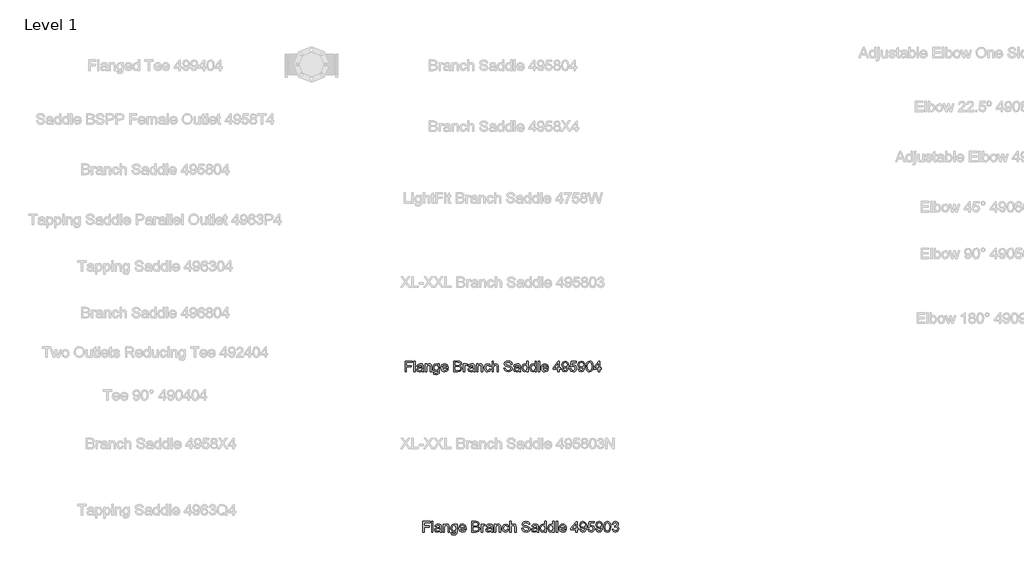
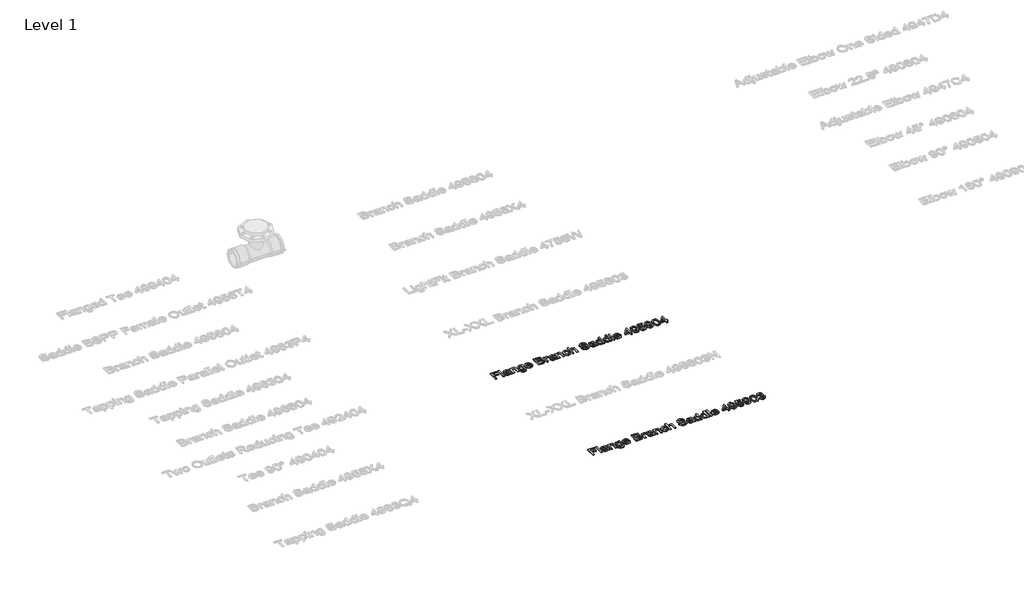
# One storey, part 10 of 38: 2 proxies.
"""IFC4 building model written with IfcOpenShell, lengths in millimetres."""

from ifc_helpers import new_model, si_unit, origin, origin_with_axes, place, context, project, spatial, polyline, outline, extrude, element, save

model = new_model("IFC4")

# Units and contexts
model_context = context("Model", 3, world=origin())
ifc_project = project(units=[si_unit("LENGTHUNIT", "METRE", prefix="MILLI")], contexts=[model_context])

# Site, building, storey
site = spatial("IfcSite", under=ifc_project)
building = spatial("IfcBuilding", under=site)
storey = spatial("IfcBuildingStorey", under=building, Name="Level 1", Elevation=0.0)

# Proxies
placement = place(None, origin())
element("IfcBuildingElementProxy", 1, Name="100 mm Arial", ObjectType="100 mm Arial", at=placement, inside=storey, context=model_context, shape_type="SweptSolid", body=[
    extrude(outline(polyline([(8453.5193072, 3257.5779735), (8453.5193072, 3316.6548966), (8493.2116149, 3316.6548966), (8493.2116149, 3309.2702812), (8460.9039226, 3309.2702812), (8460.9039226, 3291.7318197), (8488.5962303, 3291.7318197), (8488.5962303, 3284.3472043), (8460.9039226, 3284.3472043), (8460.9039226, 3257.5779735), (8453.5193072, 3257.5779735)])), origin_with_axes(), (0.0, 0.0, 1.0), 5.0),
    extrude(outline(polyline([(8502.4423841, 3257.5779735), (8502.4423841, 3316.6548966), (8509.8269995, 3316.6548966), (8509.8269995, 3257.5779735), (8502.4423841, 3257.5779735)])), origin_with_axes(), (0.0, 0.0, 1.0), 5.0),
    extrude(outline(polyline([(8548.5962303, 3263.1164351), (8541.4351726, 3258.1116274), (8533.5241149, 3256.6548966), (8522.8005572, 3260.1597043), (8519.0577687, 3269.1164351), (8520.4712303, 3274.9577812), (8524.1851726, 3279.1981658), (8529.3558456, 3281.6212428), (8535.7452687, 3282.7318197), (8548.552961, 3285.2702812), (8548.5962303, 3286.914512), (8546.5625764, 3292.3664351), (8538.3991149, 3294.5010505), (8530.927961, 3293.0803774), (8527.365461, 3288.039512), (8519.9808456, 3288.9625889), (8523.1755572, 3296.1741274), (8529.6082495, 3300.4000889), (8539.351038, 3301.8856658), (8548.3005572, 3300.5731658), (8553.3558456, 3297.2774928), (8555.6202687, 3292.2654735), (8555.9808456, 3285.8039351), (8555.9808456, 3276.6164351), (8556.3558456, 3263.7871082), (8557.8269995, 3257.5779735), (8550.4423841, 3257.5779735), (8548.5962303, 3263.1164351)]), holes=[polyline([(8548.5962303, 3277.8856658), (8536.6827687, 3275.6212428), (8530.3294033, 3274.4241274), (8527.4519995, 3272.477012), (8526.4423841, 3269.6356658), (8528.6419033, 3265.6404735), (8535.0962303, 3264.039512), (8542.5673841, 3265.8063389), (8547.3846918, 3270.0827812), (8548.552961, 3275.7943197), (8548.5962303, 3277.8856658)])]), origin_with_axes(), (0.0, 0.0, 1.0), 5.0),
    extrude(outline(polyline([(8566.1346918, 3257.5779735), (8566.1346918, 3300.9625889), (8573.5193072, 3300.9625889), (8573.5193072, 3294.9048966), (8579.1659418, 3300.1404735), (8586.8750764, 3301.8856658), (8593.8486341, 3300.4794158), (8598.6082495, 3296.7871082), (8600.8221918, 3291.3568197), (8601.2116149, 3284.2173966), (8601.2116149, 3257.5779735), (8593.8269995, 3257.5779735), (8593.8269995, 3283.2222043), (8592.976038, 3289.7558582), (8589.9688264, 3293.2101851), (8584.8991149, 3294.5010505), (8576.8870956, 3291.602012), (8573.5193072, 3280.5972043), (8573.5193072, 3257.5779735), (8566.1346918, 3257.5779735)])), origin_with_axes(), (0.0, 0.0, 1.0), 5.0),
    extrude(outline(polyline([(8609.5193072, 3253.8856658), (8616.9039226, 3252.9625889), (8619.2981533, 3249.0683582), (8626.4664226, 3247.4241274), (8634.0241149, 3249.2847043), (8637.6298841, 3254.5058582), (8638.1346918, 3263.1164351), (8626.5962303, 3257.5779735), (8618.9826485, 3259.1897524), (8613.3053649, 3264.0250889), (8608.5962303, 3279.4866274), (8610.709211, 3290.9313389), (8616.8245956, 3299.0298966), (8626.2356533, 3301.8856658), (8632.8233937, 3300.2702812), (8638.1346918, 3295.4241274), (8638.1346918, 3300.9625889), (8645.5193072, 3300.9625889), (8645.5193072, 3263.5058582), (8643.5000764, 3249.1621082), (8637.1034418, 3242.4914351), (8626.3221918, 3240.039512), (8614.0409418, 3243.4938389), (8609.5193072, 3253.8856658)]), holes=[polyline([(8615.9808456, 3279.9914351), (8619.132288, 3268.5611466), (8627.0433456, 3264.9625889), (8634.9399803, 3268.539512), (8638.1346918, 3279.7750889), (8634.8462303, 3290.7871082), (8626.927961, 3294.5010505), (8619.1755572, 3290.8448005), (8615.9808456, 3279.9914351)])]), origin_with_axes(), (0.0, 0.0, 1.0), 5.0),
    extrude(outline(polyline([(8686.9712303, 3270.5010505), (8694.2116149, 3269.5779735), (8687.4399803, 3260.0443197), (8674.8269995, 3256.6548966), (8666.162336, 3258.117036), (8659.4952687, 3262.5034543), (8655.2440668, 3269.5292957), (8653.8269995, 3278.9097043), (8655.2584899, 3288.6056178), (8659.552961, 3295.8568197), (8666.1298841, 3300.3784543), (8674.4087303, 3301.8856658), (8682.4297639, 3300.3820601), (8688.8390187, 3295.8712428), (8693.0415428, 3288.6344639), (8694.4423841, 3278.9529735), (8694.3991149, 3276.9625889), (8661.2116149, 3276.9625889), (8665.459211, 3267.3712428), (8674.9712303, 3264.039512), (8682.2116149, 3265.5827812), (8686.9712303, 3270.5010505)]), holes=[polyline([(8661.2116149, 3284.3472043), (8687.0577687, 3284.3472043), (8684.101038, 3291.039512), (8674.3798841, 3294.5010505), (8665.2861341, 3291.7390312), (8661.2116149, 3284.3472043)])]), origin_with_axes(), (0.0, 0.0, 1.0), 5.0),
    extrude(outline(polyline([(8725.8269995, 3257.5779735), (8725.8269995, 3316.6548966), (8748.3702687, 3316.6548966), (8759.4111341, 3314.9169158), (8765.9303649, 3309.5731658), (8768.288538, 3302.0154735), (8766.3053649, 3295.1140312), (8760.3125764, 3289.8856658), (8767.5890187, 3284.3760505), (8770.1346918, 3275.1885505), (8768.396711, 3267.2486466), (8764.0914226, 3261.5948005), (8757.6659418, 3258.5948005), (8748.1971918, 3257.5779735), (8725.8269995, 3257.5779735)]), holes=[polyline([(8733.2116149, 3264.9625889), (8748.3558456, 3264.9625889), (8753.8366149, 3265.2510505), (8758.4736341, 3266.8592235), (8761.5457495, 3270.1404735), (8762.7500764, 3275.1164351), (8761.3366149, 3280.8568197), (8756.757288, 3284.2823005), (8747.6346918, 3285.2702812), (8733.2116149, 3285.2702812), (8733.2116149, 3264.9625889)]), polyline([(8733.2116149, 3292.6548966), (8746.6971918, 3292.6548966), (8754.5721918, 3293.289512), (8759.3101726, 3296.0226851), (8760.9039226, 3300.8327812), (8759.4183456, 3305.6500889), (8755.163538, 3308.4986466), (8745.6731533, 3309.2702812), (8733.2116149, 3309.2702812), (8733.2116149, 3292.6548966)])]), origin_with_axes(), (0.0, 0.0, 1.0), 5.0),
    extrude(outline(polyline([(8779.365461, 3257.5779735), (8779.365461, 3300.9625889), (8785.8269995, 3300.9625889), (8785.8269995, 3294.5443197), (8790.413538, 3300.4577812), (8795.0289226, 3301.8856658), (8802.4423841, 3299.6068197), (8799.976038, 3292.9866274), (8794.7837303, 3294.5010505), (8790.6082495, 3293.0443197), (8787.9471918, 3289.0058582), (8786.7500764, 3280.3808582), (8786.7500764, 3257.5779735), (8779.365461, 3257.5779735)])), origin_with_axes(), (0.0, 0.0, 1.0), 5.0),
    extrude(outline(polyline([(8834.7500764, 3263.1164351), (8827.5890187, 3258.1116274), (8819.677961, 3256.6548966), (8808.9544033, 3260.1597043), (8805.2116149, 3269.1164351), (8806.6250764, 3274.9577812), (8810.3390187, 3279.1981658), (8815.5096918, 3281.6212428), (8821.8991149, 3282.7318197), (8834.7068072, 3285.2702812), (8834.7500764, 3286.914512), (8832.7164226, 3292.3664351), (8824.552961, 3294.5010505), (8817.0818072, 3293.0803774), (8813.5193072, 3288.039512), (8806.1346918, 3288.9625889), (8809.3294033, 3296.1741274), (8815.7620956, 3300.4000889), (8825.5048841, 3301.8856658), (8834.4544033, 3300.5731658), (8839.5096918, 3297.2774928), (8841.7741149, 3292.2654735), (8842.1346918, 3285.8039351), (8842.1346918, 3276.6164351), (8842.5096918, 3263.7871082), (8843.9808456, 3257.5779735), (8836.5962303, 3257.5779735), (8834.7500764, 3263.1164351)]), holes=[polyline([(8834.7500764, 3277.8856658), (8822.8366149, 3275.6212428), (8816.4832495, 3274.4241274), (8813.6058456, 3272.477012), (8812.5962303, 3269.6356658), (8814.7957495, 3265.6404735), (8821.2500764, 3264.039512), (8828.7212303, 3265.8063389), (8833.538538, 3270.0827812), (8834.7068072, 3275.7943197), (8834.7500764, 3277.8856658)])]), origin_with_axes(), (0.0, 0.0, 1.0), 5.0),
    extrude(outline(polyline([(8852.288538, 3257.5779735), (8852.288538, 3300.9625889), (8859.6731533, 3300.9625889), (8859.6731533, 3294.9048966), (8865.319788, 3300.1404735), (8873.0289226, 3301.8856658), (8880.0024803, 3300.4794158), (8884.7620956, 3296.7871082), (8886.976038, 3291.3568197), (8887.365461, 3284.2173966), (8887.365461, 3257.5779735), (8879.9808456, 3257.5779735), (8879.9808456, 3283.2222043), (8879.1298841, 3289.7558582), (8876.1226726, 3293.2101851), (8871.052961, 3294.5010505), (8863.0409418, 3291.602012), (8859.6731533, 3280.5972043), (8859.6731533, 3257.5779735), (8852.288538, 3257.5779735)])), origin_with_axes(), (0.0, 0.0, 1.0), 5.0),
    extrude(outline(polyline([(8925.2116149, 3273.2702812), (8932.5962303, 3272.3472043), (8926.6683456, 3260.8159543), (8914.9568072, 3256.6548966), (8907.1016389, 3258.1062187), (8900.959211, 3262.4601851), (8896.9946678, 3269.5256899), (8895.6731533, 3279.1116274), (8897.9303649, 3291.3784543), (8904.8101726, 3299.2606658), (8914.8558456, 3301.8856658), (8926.084211, 3298.2798966), (8931.6731533, 3288.039512), (8924.288538, 3287.1164351), (8920.8630572, 3292.6476851), (8914.913538, 3294.5010505), (8906.3534418, 3290.852012), (8903.0577687, 3279.3135505), (8906.2813264, 3267.6669158), (8914.7116149, 3264.039512), (8921.6707495, 3266.3039351), (8925.2116149, 3273.2702812)])), origin_with_axes(), (0.0, 0.0, 1.0), 5.0),
    extrude(outline(polyline([(8939.0577687, 3257.5779735), (8939.0577687, 3316.6548966), (8946.4423841, 3316.6548966), (8946.4423841, 3294.9337428), (8952.2007976, 3300.1476851), (8959.2933456, 3301.8856658), (8967.5866149, 3299.9890312), (8972.6202687, 3294.7462428), (8974.1346918, 3285.039512), (8974.1346918, 3257.5779735), (8966.7500764, 3257.5779735), (8966.7500764, 3284.2750889), (8964.3991149, 3292.0635505), (8957.7356533, 3294.5010505), (8951.6851726, 3292.8568197), (8947.646711, 3288.4000889), (8946.4423841, 3280.6260505), (8946.4423841, 3257.5779735), (8939.0577687, 3257.5779735)])), origin_with_axes(), (0.0, 0.0, 1.0), 5.0),
    extrude(outline(polyline([(9005.5193072, 3277.8856658), (9012.9039226, 3277.8856658), (9015.2837303, 3270.4938389), (9021.0962303, 3265.820762), (9029.9519995, 3264.039512), (9037.6683456, 3265.3880697), (9042.6515187, 3269.0948005), (9044.288538, 3274.0491274), (9043.0625764, 3278.6573005), (9038.0433456, 3282.0106658), (9027.2909418, 3284.8303774), (9015.7164226, 3288.4722043), (9009.4351726, 3293.9673966), (9007.365461, 3301.3087428), (9009.9255572, 3309.6669158), (9017.4039226, 3315.5659543), (9028.351038, 3317.5779735), (9040.0337303, 3315.4722043), (9047.8221918, 3309.2847043), (9050.7500764, 3300.039512), (9043.365461, 3300.039512), (9039.1827687, 3307.6260505), (9028.6394995, 3310.1933582), (9018.0673841, 3307.6548966), (9014.7500764, 3301.5250889), (9017.101038, 3296.4048966), (9029.1587303, 3292.2798966), (9042.226038, 3288.5731658), (9049.3726726, 3282.5875889), (9051.6731533, 3274.2366274), (9049.0265187, 3265.4024928), (9041.4111341, 3258.9553774), (9030.240461, 3256.6548966), (9017.0505572, 3259.1356658), (9008.7068072, 3266.6068197), (9005.5193072, 3277.8856658)])), origin_with_axes(), (0.0, 0.0, 1.0), 5.0),
    extrude(outline(polyline([(9089.5193072, 3263.1164351), (9082.3582495, 3258.1116274), (9074.4471918, 3256.6548966), (9063.7236341, 3260.1597043), (9059.9808456, 3269.1164351), (9061.3943072, 3274.9577812), (9065.1082495, 3279.1981658), (9070.2789226, 3281.6212428), (9076.6683456, 3282.7318197), (9089.476038, 3285.2702812), (9089.5193072, 3286.914512), (9087.4856533, 3292.3664351), (9079.3221918, 3294.5010505), (9071.851038, 3293.0803774), (9068.288538, 3288.039512), (9060.9039226, 3288.9625889), (9064.0986341, 3296.1741274), (9070.5313264, 3300.4000889), (9080.2741149, 3301.8856658), (9089.2236341, 3300.5731658), (9094.2789226, 3297.2774928), (9096.5433456, 3292.2654735), (9096.9039226, 3285.8039351), (9096.9039226, 3276.6164351), (9097.2789226, 3263.7871082), (9098.7500764, 3257.5779735), (9091.365461, 3257.5779735), (9089.5193072, 3263.1164351)]), holes=[polyline([(9089.5193072, 3277.8856658), (9077.6058456, 3275.6212428), (9071.2524803, 3274.4241274), (9068.3750764, 3272.477012), (9067.365461, 3269.6356658), (9069.5649803, 3265.6404735), (9076.0193072, 3264.039512), (9083.490461, 3265.8063389), (9088.3077687, 3270.0827812), (9089.476038, 3275.7943197), (9089.5193072, 3277.8856658)])]), origin_with_axes(), (0.0, 0.0, 1.0), 5.0),
    extrude(outline(polyline([(9133.8269995, 3257.5779735), (9133.8269995, 3264.5443197), (9128.9411822, 3258.6272524), (9122.1875764, 3256.6548966), (9113.0433456, 3259.5106658), (9106.5818072, 3267.4794158), (9104.288538, 3279.227012), (9106.4015187, 3290.9818197), (9112.7332495, 3299.0731658), (9122.1587303, 3301.8856658), (9128.9664226, 3299.8736466), (9133.8269995, 3294.6452812), (9133.8269995, 3316.6548966), (9141.2116149, 3316.6548966), (9141.2116149, 3257.5779735), (9133.8269995, 3257.5779735)]), holes=[polyline([(9111.6731533, 3279.2558582), (9115.0048841, 3267.8255697), (9122.865461, 3264.039512), (9130.632288, 3267.6524928), (9133.8269995, 3278.6933582), (9130.5745956, 3290.6789351), (9122.5625764, 3294.5010505), (9114.788538, 3290.8303774), (9111.6731533, 3279.2558582)])]), origin_with_axes(), (0.0, 0.0, 1.0), 5.0),
    extrude(outline(polyline([(9179.0577687, 3257.5779735), (9179.0577687, 3264.5443197), (9174.1719514, 3258.6272524), (9167.4183456, 3256.6548966), (9158.2741149, 3259.5106658), (9151.8125764, 3267.4794158), (9149.5193072, 3279.227012), (9151.632288, 3290.9818197), (9157.9640187, 3299.0731658), (9167.3894995, 3301.8856658), (9174.1971918, 3299.8736466), (9179.0577687, 3294.6452812), (9179.0577687, 3316.6548966), (9186.4423841, 3316.6548966), (9186.4423841, 3257.5779735), (9179.0577687, 3257.5779735)]), holes=[polyline([(9156.9039226, 3279.2558582), (9160.2356533, 3267.8255697), (9168.0962303, 3264.039512), (9175.8630572, 3267.6524928), (9179.0577687, 3278.6933582), (9175.8053649, 3290.6789351), (9167.7933456, 3294.5010505), (9160.0193072, 3290.8303774), (9156.9039226, 3279.2558582)])]), origin_with_axes(), (0.0, 0.0, 1.0), 5.0),
    extrude(outline(polyline([(9197.5193072, 3257.5779735), (9197.5193072, 3316.6548966), (9204.9039226, 3316.6548966), (9204.9039226, 3257.5779735), (9197.5193072, 3257.5779735)])), origin_with_axes(), (0.0, 0.0, 1.0), 5.0),
    extrude(outline(polyline([(9246.3558456, 3270.5010505), (9253.5962303, 3269.5779735), (9246.8245956, 3260.0443197), (9234.2116149, 3256.6548966), (9225.5469514, 3258.117036), (9218.8798841, 3262.5034543), (9214.6286822, 3269.5292957), (9213.2116149, 3278.9097043), (9214.6431053, 3288.6056178), (9218.9375764, 3295.8568197), (9225.5144995, 3300.3784543), (9233.7933456, 3301.8856658), (9241.8143793, 3300.3820601), (9248.2236341, 3295.8712428), (9252.4261581, 3288.6344639), (9253.8269995, 3278.9529735), (9253.7837303, 3276.9625889), (9220.5962303, 3276.9625889), (9224.8438264, 3267.3712428), (9234.3558456, 3264.039512), (9241.5962303, 3265.5827812), (9246.3558456, 3270.5010505)]), holes=[polyline([(9220.5962303, 3284.3472043), (9246.4423841, 3284.3472043), (9243.4856533, 3291.039512), (9233.7644995, 3294.5010505), (9224.6707495, 3291.7390312), (9220.5962303, 3284.3472043)])]), origin_with_axes(), (0.0, 0.0, 1.0), 5.0),
    extrude(outline(polyline([(9306.4423841, 3257.5779735), (9306.4423841, 3271.4241274), (9279.6731533, 3271.4241274), (9279.6731533, 3278.8087428), (9308.288538, 3315.7318197), (9313.8269995, 3315.7318197), (9313.8269995, 3278.8087428), (9321.2116149, 3278.8087428), (9321.2116149, 3271.4241274), (9313.8269995, 3271.4241274), (9313.8269995, 3257.5779735), (9306.4423841, 3257.5779735)]), holes=[polyline([(9306.4423841, 3278.8087428), (9306.4423841, 3301.6260505), (9288.7596918, 3278.8087428), (9306.4423841, 3278.8087428)])]), origin_with_axes(), (0.0, 0.0, 1.0), 5.0),
    extrude(outline(polyline([(9328.5962303, 3272.3472043), (9335.9808456, 3273.2702812), (9339.2981533, 3266.2246082), (9345.5866149, 3264.039512), (9351.5649803, 3265.445762), (9355.6178649, 3269.2029735), (9358.0337303, 3275.6212428), (9359.101038, 3284.1885505), (9353.1515187, 3280.0347043), (9345.052961, 3277.8856658), (9332.7140187, 3283.1356658), (9327.6731533, 3296.9673966), (9332.959211, 3311.2462428), (9346.2068072, 3316.6548966), (9356.7284418, 3313.5683582), (9363.9688264, 3304.7702812), (9366.4423841, 3288.2414351), (9363.976038, 3270.3063389), (9356.6419033, 3260.1452812), (9345.240461, 3256.6548966), (9333.8894995, 3260.7726851), (9328.5962303, 3272.3472043)]), holes=[polyline([(9359.0577687, 3297.1404735), (9355.8702687, 3305.9962428), (9347.4039226, 3309.2702812), (9338.5193072, 3305.7438389), (9335.0577687, 3296.6068197), (9338.3318072, 3288.4217235), (9347.2019995, 3285.2702812), (9355.7188264, 3288.4217235), (9359.0577687, 3297.1404735)])]), origin_with_axes(), (0.0, 0.0, 1.0), 5.0),
    extrude(outline(polyline([(9372.9039226, 3273.2702812), (9380.288538, 3274.1933582), (9384.0096918, 3266.5851851), (9391.726038, 3264.039512), (9400.9856533, 3267.5803774), (9404.288538, 3276.977012), (9401.194788, 3285.7462428), (9391.8414226, 3288.9625889), (9385.3582495, 3287.6789351), (9381.2116149, 3284.3472043), (9373.8269995, 3285.2702812), (9380.288538, 3315.7318197), (9408.9039226, 3315.7318197), (9408.9039226, 3308.3472043), (9386.2596918, 3308.3472043), (9383.101038, 3292.0779735), (9393.9039226, 3296.3472043), (9406.5313264, 3291.0539351), (9411.6731533, 3277.4385505), (9407.0433456, 3263.7366274), (9400.3943072, 3258.4253293), (9391.6971918, 3256.6548966), (9378.6659418, 3261.2053774), (9372.9039226, 3273.2702812)])), origin_with_axes(), (0.0, 0.0, 1.0), 5.0),
    extrude(outline(polyline([(9419.0577687, 3272.3472043), (9426.4423841, 3273.2702812), (9429.7596918, 3266.2246082), (9436.0481533, 3264.039512), (9442.0265187, 3265.445762), (9446.0794033, 3269.2029735), (9448.4952687, 3275.6212428), (9449.5625764, 3284.1885505), (9443.6130572, 3280.0347043), (9435.5144995, 3277.8856658), (9423.1755572, 3283.1356658), (9418.1346918, 3296.9673966), (9423.4207495, 3311.2462428), (9436.6683456, 3316.6548966), (9447.1899803, 3313.5683582), (9454.4303649, 3304.7702812), (9456.9039226, 3288.2414351), (9454.4375764, 3270.3063389), (9447.1034418, 3260.1452812), (9435.7019995, 3256.6548966), (9424.351038, 3260.7726851), (9419.0577687, 3272.3472043)]), holes=[polyline([(9449.5193072, 3297.1404735), (9446.3318072, 3305.9962428), (9437.865461, 3309.2702812), (9428.9808456, 3305.7438389), (9425.5193072, 3296.6068197), (9428.7933456, 3288.4217235), (9437.663538, 3285.2702812), (9446.1803649, 3288.4217235), (9449.5193072, 3297.1404735)])]), origin_with_axes(), (0.0, 0.0, 1.0), 5.0),
    extrude(outline(polyline([(9463.365461, 3286.6404735), (9465.5361341, 3303.6380697), (9471.9832495, 3313.4385505), (9482.7500764, 3316.6548966), (9491.3750764, 3314.7510505), (9497.3318072, 3309.2630697), (9500.7933456, 3300.5226851), (9502.1346918, 3286.6404735), (9499.9856533, 3269.7149928), (9493.5601726, 3259.8928774), (9482.7500764, 3256.6548966), (9475.0769995, 3258.0611466), (9469.2500764, 3262.2798966), (9464.8366149, 3272.2714832), (9463.365461, 3286.6404735)]), holes=[polyline([(9470.7500764, 3286.6548966), (9474.2116149, 3268.3159543), (9482.7500764, 3264.039512), (9491.288538, 3268.3303774), (9494.7500764, 3286.6548966), (9491.4039226, 3304.7847043), (9482.663538, 3309.2702812), (9474.3269995, 3305.3183582), (9470.7500764, 3286.6548966)])]), origin_with_axes(), (0.0, 0.0, 1.0), 5.0),
    extrude(outline(polyline([(9532.5962303, 3257.5779735), (9532.5962303, 3271.4241274), (9505.8269995, 3271.4241274), (9505.8269995, 3278.8087428), (9534.4423841, 3315.7318197), (9539.9808456, 3315.7318197), (9539.9808456, 3278.8087428), (9547.365461, 3278.8087428), (9547.365461, 3271.4241274), (9539.9808456, 3271.4241274), (9539.9808456, 3257.5779735), (9532.5962303, 3257.5779735)]), holes=[polyline([(9532.5962303, 3278.8087428), (9532.5962303, 3301.6260505), (9514.913538, 3278.8087428), (9532.5962303, 3278.8087428)])]), origin_with_axes(), (0.0, 0.0, 1.0), 5.0),
])
element("IfcBuildingElementProxy", 2, Name="100 mm Arial", ObjectType="100 mm Arial", at=placement, inside=storey, context=model_context, shape_type="SweptSolid", body=[
    extrude(outline(polyline([(8553.0655723, 2362.7799637), (8553.0655723, 2421.8568868), (8592.75788, 2421.8568868), (8592.75788, 2414.4722714), (8560.4501877, 2414.4722714), (8560.4501877, 2396.9338099), (8588.1424954, 2396.9338099), (8588.1424954, 2389.5491945), (8560.4501877, 2389.5491945), (8560.4501877, 2362.7799637), (8553.0655723, 2362.7799637)])), origin_with_axes(), (0.0, 0.0, 1.0), 5.0),
    extrude(outline(polyline([(8601.9886492, 2362.7799637), (8601.9886492, 2421.8568868), (8609.3732646, 2421.8568868), (8609.3732646, 2362.7799637), (8601.9886492, 2362.7799637)])), origin_with_axes(), (0.0, 0.0, 1.0), 5.0),
    extrude(outline(polyline([(8648.1424954, 2368.3184253), (8640.9814377, 2363.3136176), (8633.07038, 2361.8568868), (8622.3468223, 2365.3616945), (8618.6040339, 2374.3184253), (8620.0174954, 2380.1597714), (8623.7314377, 2384.400156), (8628.9021108, 2386.823233), (8635.2915339, 2387.9338099), (8648.0992262, 2390.4722714), (8648.1424954, 2392.1165022), (8646.1088416, 2397.5684253), (8637.94538, 2399.7030406), (8630.4742262, 2398.2823676), (8626.9117262, 2393.2415022), (8619.5271108, 2394.1645791), (8622.7218223, 2401.3761176), (8629.1545146, 2405.6020791), (8638.8973031, 2407.087656), (8647.8468223, 2405.775156), (8652.9021108, 2402.479483), (8655.1665339, 2397.4674637), (8655.5271108, 2391.0059253), (8655.5271108, 2381.8184253), (8655.9021108, 2368.9890983), (8657.3732646, 2362.7799637), (8649.9886492, 2362.7799637), (8648.1424954, 2368.3184253)]), holes=[polyline([(8648.1424954, 2383.087656), (8636.2290339, 2380.823233), (8629.8756685, 2379.6261176), (8626.9982646, 2377.6790022), (8625.9886492, 2374.837656), (8628.1881685, 2370.8424637), (8634.6424954, 2369.2415022), (8642.1136492, 2371.0083291), (8646.9309569, 2375.2847714), (8648.0992262, 2380.9963099), (8648.1424954, 2383.087656)])]), origin_with_axes(), (0.0, 0.0, 1.0), 5.0),
    extrude(outline(polyline([(8665.6809569, 2362.7799637), (8665.6809569, 2406.1645791), (8673.0655723, 2406.1645791), (8673.0655723, 2400.1068868), (8678.7122069, 2405.3424637), (8686.4213416, 2407.087656), (8693.3948992, 2405.681406), (8698.1545146, 2401.9890983), (8700.3684569, 2396.5588099), (8700.75788, 2389.4193868), (8700.75788, 2362.7799637), (8693.3732646, 2362.7799637), (8693.3732646, 2388.4241945), (8692.5223031, 2394.9578483), (8689.5150916, 2398.4121753), (8684.44538, 2399.7030406), (8676.4333608, 2396.8040022), (8673.0655723, 2385.7991945), (8673.0655723, 2362.7799637), (8665.6809569, 2362.7799637)])), origin_with_axes(), (0.0, 0.0, 1.0), 5.0),
    extrude(outline(polyline([(8709.0655723, 2359.087656), (8716.4501877, 2358.1645791), (8718.8444185, 2354.2703483), (8726.0126877, 2352.6261176), (8733.57038, 2354.4866945), (8737.1761492, 2359.7078483), (8737.6809569, 2368.3184253), (8726.1424954, 2362.7799637), (8718.5289137, 2364.3917426), (8712.85163, 2369.2270791), (8708.1424954, 2384.6886176), (8710.2554762, 2396.1333291), (8716.3708608, 2404.2318868), (8725.7819185, 2407.087656), (8732.3696589, 2405.4722714), (8737.6809569, 2400.6261176), (8737.6809569, 2406.1645791), (8745.0655723, 2406.1645791), (8745.0655723, 2368.7078483), (8743.0463416, 2354.3640983), (8736.6497069, 2347.6934253), (8725.8684569, 2345.2415022), (8713.5872069, 2348.6958291), (8709.0655723, 2359.087656)]), holes=[polyline([(8715.5271108, 2385.1934253), (8718.6785531, 2373.7631368), (8726.5896108, 2370.1645791), (8734.4862454, 2373.7415022), (8737.6809569, 2384.9770791), (8734.3924954, 2395.9890983), (8726.4742262, 2399.7030406), (8718.7218223, 2396.0467906), (8715.5271108, 2385.1934253)])]), origin_with_axes(), (0.0, 0.0, 1.0), 5.0),
    extrude(outline(polyline([(8786.5174954, 2375.7030406), (8793.75788, 2374.7799637), (8786.9862454, 2365.2463099), (8774.3732646, 2361.8568868), (8765.7086012, 2363.3190262), (8759.0415339, 2367.7054445), (8754.7903319, 2374.7312858), (8753.3732646, 2384.1116945), (8754.804755, 2393.807608), (8759.0992262, 2401.0588099), (8765.6761492, 2405.5804445), (8773.9549954, 2407.087656), (8781.9760291, 2405.5840503), (8788.3852839, 2401.073233), (8792.5878079, 2393.8364541), (8793.9886492, 2384.1549637), (8793.94538, 2382.1645791), (8760.75788, 2382.1645791), (8765.0054762, 2372.573233), (8774.5174954, 2369.2415022), (8781.75788, 2370.7847714), (8786.5174954, 2375.7030406)]), holes=[polyline([(8760.75788, 2389.5491945), (8786.6040339, 2389.5491945), (8783.6473031, 2396.2415022), (8773.9261492, 2399.7030406), (8764.8323992, 2396.9410214), (8760.75788, 2389.5491945)])]), origin_with_axes(), (0.0, 0.0, 1.0), 5.0),
    extrude(outline(polyline([(8825.3732646, 2362.7799637), (8825.3732646, 2421.8568868), (8847.9165339, 2421.8568868), (8858.9573992, 2420.118906), (8865.47663, 2414.775156), (8867.8348031, 2407.2174637), (8865.85163, 2400.3160214), (8859.8588416, 2395.087656), (8867.1352839, 2389.5780406), (8869.6809569, 2380.3905406), (8867.9429762, 2372.4506368), (8863.6376877, 2366.7967906), (8857.2122069, 2363.7967906), (8847.7434569, 2362.7799637), (8825.3732646, 2362.7799637)]), holes=[polyline([(8832.75788, 2370.1645791), (8847.9021108, 2370.1645791), (8853.38288, 2370.4530406), (8858.0198992, 2372.0612137), (8861.0920146, 2375.3424637), (8862.2963416, 2380.3184253), (8860.88288, 2386.0588099), (8856.3035531, 2389.4842906), (8847.1809569, 2390.4722714), (8832.75788, 2390.4722714), (8832.75788, 2370.1645791)]), polyline([(8832.75788, 2397.8568868), (8846.2434569, 2397.8568868), (8854.1184569, 2398.4915022), (8858.8564377, 2401.2246753), (8860.4501877, 2406.0347714), (8858.9646108, 2410.8520791), (8854.7098031, 2413.7006368), (8845.2194185, 2414.4722714), (8832.75788, 2414.4722714), (8832.75788, 2397.8568868)])]), origin_with_axes(), (0.0, 0.0, 1.0), 5.0),
    extrude(outline(polyline([(8878.9117262, 2362.7799637), (8878.9117262, 2406.1645791), (8885.3732646, 2406.1645791), (8885.3732646, 2399.7463099), (8889.9598031, 2405.6597714), (8894.5751877, 2407.087656), (8901.9886492, 2404.8088099), (8899.5223031, 2398.1886176), (8894.3299954, 2399.7030406), (8890.1545146, 2398.2463099), (8887.4934569, 2394.2078483), (8886.2963416, 2385.5828483), (8886.2963416, 2362.7799637), (8878.9117262, 2362.7799637)])), origin_with_axes(), (0.0, 0.0, 1.0), 5.0),
    extrude(outline(polyline([(8934.2963416, 2368.3184253), (8927.1352839, 2363.3136176), (8919.2242262, 2361.8568868), (8908.5006685, 2365.3616945), (8904.75788, 2374.3184253), (8906.1713416, 2380.1597714), (8909.8852839, 2384.400156), (8915.0559569, 2386.823233), (8921.44538, 2387.9338099), (8934.2530723, 2390.4722714), (8934.2963416, 2392.1165022), (8932.2626877, 2397.5684253), (8924.0992262, 2399.7030406), (8916.6280723, 2398.2823676), (8913.0655723, 2393.2415022), (8905.6809569, 2394.1645791), (8908.8756685, 2401.3761176), (8915.3083608, 2405.6020791), (8925.0511492, 2407.087656), (8934.0006685, 2405.775156), (8939.0559569, 2402.479483), (8941.32038, 2397.4674637), (8941.6809569, 2391.0059253), (8941.6809569, 2381.8184253), (8942.0559569, 2368.9890983), (8943.5271108, 2362.7799637), (8936.1424954, 2362.7799637), (8934.2963416, 2368.3184253)]), holes=[polyline([(8934.2963416, 2383.087656), (8922.38288, 2380.823233), (8916.0295146, 2379.6261176), (8913.1521108, 2377.6790022), (8912.1424954, 2374.837656), (8914.3420146, 2370.8424637), (8920.7963416, 2369.2415022), (8928.2674954, 2371.0083291), (8933.0848031, 2375.2847714), (8934.2530723, 2380.9963099), (8934.2963416, 2383.087656)])]), origin_with_axes(), (0.0, 0.0, 1.0), 5.0),
    extrude(outline(polyline([(8951.8348031, 2362.7799637), (8951.8348031, 2406.1645791), (8959.2194185, 2406.1645791), (8959.2194185, 2400.1068868), (8964.8660531, 2405.3424637), (8972.5751877, 2407.087656), (8979.5487454, 2405.681406), (8984.3083608, 2401.9890983), (8986.5223031, 2396.5588099), (8986.9117262, 2389.4193868), (8986.9117262, 2362.7799637), (8979.5271108, 2362.7799637), (8979.5271108, 2388.4241945), (8978.6761492, 2394.9578483), (8975.6689377, 2398.4121753), (8970.5992262, 2399.7030406), (8962.5872069, 2396.8040022), (8959.2194185, 2385.7991945), (8959.2194185, 2362.7799637), (8951.8348031, 2362.7799637)])), origin_with_axes(), (0.0, 0.0, 1.0), 5.0),
    extrude(outline(polyline([(9024.75788, 2378.4722714), (9032.1424954, 2377.5491945), (9026.2146108, 2366.0179445), (9014.5030723, 2361.8568868), (9006.6479041, 2363.3082089), (9000.5054762, 2367.6621753), (8996.5409329, 2374.7276801), (8995.2194185, 2384.3136176), (8997.47663, 2396.5804445), (9004.3564377, 2404.462656), (9014.4021108, 2407.087656), (9025.6304762, 2403.4818868), (9031.2194185, 2393.2415022), (9023.8348031, 2392.3184253), (9020.4093223, 2397.8496753), (9014.4598031, 2399.7030406), (9005.8997069, 2396.0540022), (9002.6040339, 2384.5155406), (9005.8275916, 2372.868906), (9014.25788, 2369.2415022), (9021.2170146, 2371.5059253), (9024.75788, 2378.4722714)])), origin_with_axes(), (0.0, 0.0, 1.0), 5.0),
    extrude(outline(polyline([(9038.6040339, 2362.7799637), (9038.6040339, 2421.8568868), (9045.9886492, 2421.8568868), (9045.9886492, 2400.135733), (9051.7470627, 2405.3496753), (9058.8396108, 2407.087656), (9067.13288, 2405.1910214), (9072.1665339, 2399.948233), (9073.6809569, 2390.2415022), (9073.6809569, 2362.7799637), (9066.2963416, 2362.7799637), (9066.2963416, 2389.4770791), (9063.94538, 2397.2655406), (9057.2819185, 2399.7030406), (9051.2314377, 2398.0588099), (9047.1929762, 2393.6020791), (9045.9886492, 2385.8280406), (9045.9886492, 2362.7799637), (9038.6040339, 2362.7799637)])), origin_with_axes(), (0.0, 0.0, 1.0), 5.0),
    extrude(outline(polyline([(9105.0655723, 2383.087656), (9112.4501877, 2383.087656), (9114.8299954, 2375.6958291), (9120.6424954, 2371.0227522), (9129.4982646, 2369.2415022), (9137.2146108, 2370.5900599), (9142.1977839, 2374.2967906), (9143.8348031, 2379.2511176), (9142.6088416, 2383.8592906), (9137.5896108, 2387.212656), (9126.8372069, 2390.0323676), (9115.2626877, 2393.6741945), (9108.9814377, 2399.1693868), (9106.9117262, 2406.510733), (9109.4718223, 2414.868906), (9116.9501877, 2420.7679445), (9127.8973031, 2422.7799637), (9139.5799954, 2420.6741945), (9147.3684569, 2414.4866945), (9150.2963416, 2405.2415022), (9142.9117262, 2405.2415022), (9138.7290339, 2412.8280406), (9128.1857646, 2415.3953483), (9117.6136492, 2412.8568868), (9114.2963416, 2406.7270791), (9116.6473031, 2401.6068868), (9128.7049954, 2397.4818868), (9141.7723031, 2393.775156), (9148.9189377, 2387.7895791), (9151.2194185, 2379.4386176), (9148.5727839, 2370.604483), (9140.9573992, 2364.1573676), (9129.7867262, 2361.8568868), (9116.5968223, 2364.337656), (9108.2530723, 2371.8088099), (9105.0655723, 2383.087656)])), origin_with_axes(), (0.0, 0.0, 1.0), 5.0),
    extrude(outline(polyline([(9189.0655723, 2368.3184253), (9181.9045146, 2363.3136176), (9173.9934569, 2361.8568868), (9163.2698992, 2365.3616945), (9159.5271108, 2374.3184253), (9160.9405723, 2380.1597714), (9164.6545146, 2384.400156), (9169.8251877, 2386.823233), (9176.2146108, 2387.9338099), (9189.0223031, 2390.4722714), (9189.0655723, 2392.1165022), (9187.0319185, 2397.5684253), (9178.8684569, 2399.7030406), (9171.3973031, 2398.2823676), (9167.8348031, 2393.2415022), (9160.4501877, 2394.1645791), (9163.6448992, 2401.3761176), (9170.0775916, 2405.6020791), (9179.82038, 2407.087656), (9188.7698992, 2405.775156), (9193.8251877, 2402.479483), (9196.0896108, 2397.4674637), (9196.4501877, 2391.0059253), (9196.4501877, 2381.8184253), (9196.8251877, 2368.9890983), (9198.2963416, 2362.7799637), (9190.9117262, 2362.7799637), (9189.0655723, 2368.3184253)]), holes=[polyline([(9189.0655723, 2383.087656), (9177.1521108, 2380.823233), (9170.7987454, 2379.6261176), (9167.9213416, 2377.6790022), (9166.9117262, 2374.837656), (9169.1112454, 2370.8424637), (9175.5655723, 2369.2415022), (9183.0367262, 2371.0083291), (9187.8540339, 2375.2847714), (9189.0223031, 2380.9963099), (9189.0655723, 2383.087656)])]), origin_with_axes(), (0.0, 0.0, 1.0), 5.0),
    extrude(outline(polyline([(9233.3732646, 2362.7799637), (9233.3732646, 2369.7463099), (9228.4874473, 2363.8292426), (9221.7338416, 2361.8568868), (9212.5896108, 2364.712656), (9206.1280723, 2372.681406), (9203.8348031, 2384.4290022), (9205.9477839, 2396.1838099), (9212.2795146, 2404.275156), (9221.7049954, 2407.087656), (9228.5126877, 2405.0756368), (9233.3732646, 2399.8472714), (9233.3732646, 2421.8568868), (9240.75788, 2421.8568868), (9240.75788, 2362.7799637), (9233.3732646, 2362.7799637)]), holes=[polyline([(9211.2194185, 2384.4578483), (9214.5511492, 2373.0275599), (9222.4117262, 2369.2415022), (9230.1785531, 2372.854483), (9233.3732646, 2383.8953483), (9230.1208608, 2395.8809253), (9222.1088416, 2399.7030406), (9214.3348031, 2396.0323676), (9211.2194185, 2384.4578483)])]), origin_with_axes(), (0.0, 0.0, 1.0), 5.0),
    extrude(outline(polyline([(9278.6040339, 2362.7799637), (9278.6040339, 2369.7463099), (9273.7182166, 2363.8292426), (9266.9646108, 2361.8568868), (9257.82038, 2364.712656), (9251.3588416, 2372.681406), (9249.0655723, 2384.4290022), (9251.1785531, 2396.1838099), (9257.5102839, 2404.275156), (9266.9357646, 2407.087656), (9273.7434569, 2405.0756368), (9278.6040339, 2399.8472714), (9278.6040339, 2421.8568868), (9285.9886492, 2421.8568868), (9285.9886492, 2362.7799637), (9278.6040339, 2362.7799637)]), holes=[polyline([(9256.4501877, 2384.4578483), (9259.7819185, 2373.0275599), (9267.6424954, 2369.2415022), (9275.4093223, 2372.854483), (9278.6040339, 2383.8953483), (9275.35163, 2395.8809253), (9267.3396108, 2399.7030406), (9259.5655723, 2396.0323676), (9256.4501877, 2384.4578483)])]), origin_with_axes(), (0.0, 0.0, 1.0), 5.0),
    extrude(outline(polyline([(9297.0655723, 2362.7799637), (9297.0655723, 2421.8568868), (9304.4501877, 2421.8568868), (9304.4501877, 2362.7799637), (9297.0655723, 2362.7799637)])), origin_with_axes(), (0.0, 0.0, 1.0), 5.0),
    extrude(outline(polyline([(9345.9021108, 2375.7030406), (9353.1424954, 2374.7799637), (9346.3708608, 2365.2463099), (9333.75788, 2361.8568868), (9325.0932166, 2363.3190262), (9318.4261492, 2367.7054445), (9314.1749473, 2374.7312858), (9312.75788, 2384.1116945), (9314.1893704, 2393.807608), (9318.4838416, 2401.0588099), (9325.0607646, 2405.5804445), (9333.3396108, 2407.087656), (9341.3606444, 2405.5840503), (9347.7698992, 2401.073233), (9351.9724233, 2393.8364541), (9353.3732646, 2384.1549637), (9353.3299954, 2382.1645791), (9320.1424954, 2382.1645791), (9324.3900916, 2372.573233), (9333.9021108, 2369.2415022), (9341.1424954, 2370.7847714), (9345.9021108, 2375.7030406)]), holes=[polyline([(9320.1424954, 2389.5491945), (9345.9886492, 2389.5491945), (9343.0319185, 2396.2415022), (9333.3107646, 2399.7030406), (9324.2170146, 2396.9410214), (9320.1424954, 2389.5491945)])]), origin_with_axes(), (0.0, 0.0, 1.0), 5.0),
    extrude(outline(polyline([(9405.9886492, 2362.7799637), (9405.9886492, 2376.6261176), (9379.2194185, 2376.6261176), (9379.2194185, 2384.010733), (9407.8348031, 2420.9338099), (9413.3732646, 2420.9338099), (9413.3732646, 2384.010733), (9420.75788, 2384.010733), (9420.75788, 2376.6261176), (9413.3732646, 2376.6261176), (9413.3732646, 2362.7799637), (9405.9886492, 2362.7799637)]), holes=[polyline([(9405.9886492, 2384.010733), (9405.9886492, 2406.8280406), (9388.3059569, 2384.010733), (9405.9886492, 2384.010733)])]), origin_with_axes(), (0.0, 0.0, 1.0), 5.0),
    extrude(outline(polyline([(9428.1424954, 2377.5491945), (9435.5271108, 2378.4722714), (9438.8444185, 2371.4265983), (9445.13288, 2369.2415022), (9451.1112454, 2370.6477522), (9455.16413, 2374.4049637), (9457.5799954, 2380.823233), (9458.6473031, 2389.3905406), (9452.6977839, 2385.2366945), (9444.5992262, 2383.087656), (9432.2602839, 2388.337656), (9427.2194185, 2402.1693868), (9432.5054762, 2416.448233), (9445.7530723, 2421.8568868), (9456.2747069, 2418.7703483), (9463.5150916, 2409.9722714), (9465.9886492, 2393.4434253), (9463.5223031, 2375.5083291), (9456.1881685, 2365.3472714), (9444.7867262, 2361.8568868), (9433.4357646, 2365.9746753), (9428.1424954, 2377.5491945)]), holes=[polyline([(9458.6040339, 2402.3424637), (9455.4165339, 2411.198233), (9446.9501877, 2414.4722714), (9438.0655723, 2410.9458291), (9434.6040339, 2401.8088099), (9437.8780723, 2393.6237137), (9446.7482646, 2390.4722714), (9455.2650916, 2393.6237137), (9458.6040339, 2402.3424637)])]), origin_with_axes(), (0.0, 0.0, 1.0), 5.0),
    extrude(outline(polyline([(9472.4501877, 2378.4722714), (9479.8348031, 2379.3953483), (9483.5559569, 2371.7871753), (9491.2723031, 2369.2415022), (9500.5319185, 2372.7823676), (9503.8348031, 2382.1790022), (9500.7410531, 2390.948233), (9491.3876877, 2394.1645791), (9484.9045146, 2392.8809253), (9480.75788, 2389.5491945), (9473.3732646, 2390.4722714), (9479.8348031, 2420.9338099), (9508.4501877, 2420.9338099), (9508.4501877, 2413.5491945), (9485.8059569, 2413.5491945), (9482.6473031, 2397.2799637), (9493.4501877, 2401.5491945), (9506.0775916, 2396.2559253), (9511.2194185, 2382.6405406), (9506.5896108, 2368.9386176), (9499.9405723, 2363.6273195), (9491.2434569, 2361.8568868), (9478.2122069, 2366.4073676), (9472.4501877, 2378.4722714)])), origin_with_axes(), (0.0, 0.0, 1.0), 5.0),
    extrude(outline(polyline([(9518.6040339, 2377.5491945), (9525.9886492, 2378.4722714), (9529.3059569, 2371.4265983), (9535.5944185, 2369.2415022), (9541.5727839, 2370.6477522), (9545.6256685, 2374.4049637), (9548.0415339, 2380.823233), (9549.1088416, 2389.3905406), (9543.1593223, 2385.2366945), (9535.0607646, 2383.087656), (9522.7218223, 2388.337656), (9517.6809569, 2402.1693868), (9522.9670146, 2416.448233), (9536.2146108, 2421.8568868), (9546.7362454, 2418.7703483), (9553.97663, 2409.9722714), (9556.4501877, 2393.4434253), (9553.9838416, 2375.5083291), (9546.6497069, 2365.3472714), (9535.2482646, 2361.8568868), (9523.8973031, 2365.9746753), (9518.6040339, 2377.5491945)]), holes=[polyline([(9549.0655723, 2402.3424637), (9545.8780723, 2411.198233), (9537.4117262, 2414.4722714), (9528.5271108, 2410.9458291), (9525.0655723, 2401.8088099), (9528.3396108, 2393.6237137), (9537.2098031, 2390.4722714), (9545.72663, 2393.6237137), (9549.0655723, 2402.3424637)])]), origin_with_axes(), (0.0, 0.0, 1.0), 5.0),
    extrude(outline(polyline([(9562.9117262, 2391.8424637), (9565.0823992, 2408.8400599), (9571.5295146, 2418.6405406), (9582.2963416, 2421.8568868), (9590.9213416, 2419.9530406), (9596.8780723, 2414.4650599), (9600.3396108, 2405.7246753), (9601.6809569, 2391.8424637), (9599.5319185, 2374.916983), (9593.1064377, 2365.0948676), (9582.2963416, 2361.8568868), (9574.6232646, 2363.2631368), (9568.7963416, 2367.4818868), (9564.38288, 2377.4734733), (9562.9117262, 2391.8424637)]), holes=[polyline([(9570.2963416, 2391.8568868), (9573.75788, 2373.5179445), (9582.2963416, 2369.2415022), (9590.8348031, 2373.5323676), (9594.2963416, 2391.8568868), (9590.9501877, 2409.9866945), (9582.2098031, 2414.4722714), (9573.8732646, 2410.5203483), (9570.2963416, 2391.8568868)])]), origin_with_axes(), (0.0, 0.0, 1.0), 5.0),
    extrude(outline(polyline([(9608.1424954, 2378.4722714), (9615.5271108, 2379.3953483), (9619.60163, 2371.6213099), (9627.2242262, 2369.2415022), (9636.19538, 2372.5155406), (9639.5271108, 2380.6213099), (9636.2242262, 2388.2583291), (9627.8299954, 2391.2799637), (9622.6521108, 2390.4722714), (9623.4742262, 2397.8568868), (9633.0367262, 2399.8905406), (9636.75788, 2406.4097714), (9634.0607646, 2412.1862137), (9627.1088416, 2414.4722714), (9620.07038, 2412.1645791), (9616.4501877, 2405.2415022), (9609.0655723, 2406.1645791), (9615.1088416, 2417.7463099), (9626.8492262, 2421.8568868), (9635.7554762, 2419.8304445), (9641.9862454, 2414.291983), (9644.1424954, 2406.8424637), (9642.0944185, 2400.0347714), (9636.0367262, 2395.1453483), (9644.0848031, 2390.0972714), (9646.9117262, 2380.4915022), (9641.25788, 2367.2799637), (9626.9646108, 2361.8568868), (9614.0126877, 2366.4866945), (9608.1424954, 2378.4722714)])), origin_with_axes(), (0.0, 0.0, 1.0), 5.0),
])

save(model, "model.ifc")
